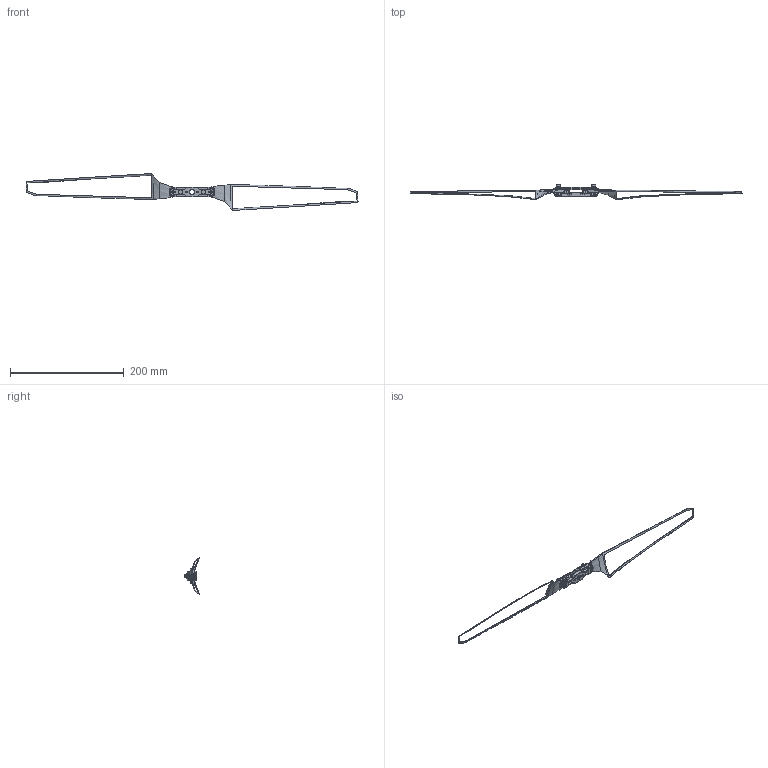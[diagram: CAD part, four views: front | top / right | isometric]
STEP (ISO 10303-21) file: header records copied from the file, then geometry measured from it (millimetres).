
FILE_DESCRIPTION (( 'STEP AP214' ), '1' );
FILE_NAME ('MF23P-A6M-懫諾.STEP', '2025-02-11T03:51:14', ( '' ), ( '' ), 'SwSTEP 2.0', 'SolidWorks 2022', '' );
FILE_SCHEMA (( 'AUTOMOTIVE_DESIGN' ));
Length unit declared in the file: millimetre
Products named in the file (5): M4 弹垫螺丝; 23A23_X2_5bf8686859394e0a677f_X0_-A-B-A; 23A23_X2_5bf8686859394e0b677f_X0_-A-B-A; M22-S5-4-05.02322 _X2_65744f53_X0_+0.25_X2_5ea6_X0_+1mm(_X2_67007ec85b9a578b7248_X0_)_X2_539f59cb53c28003_X0_; MF23P-A6M-镂空
Assembly tree (6 placements, depth 2):
  MF23P-A6M-镂空
    23A23_X2_5bf8686859394e0b677f_X0_-A-B-A
    23A23_X2_5bf8686859394e0a677f_X0_-A-B-A
    M22-S5-4-05.02322 _X2_65744f53_X0_+0.25_X2_5ea6_X0_+1mm(_X2_67007ec85b9a578b7248_X0_)_X2_539f59cb53c28003_X0_  x2
    M4 弹垫螺丝  x2
Bounding box: 584 x 27.07 x 64.81 mm (x, y, z)
Volume: 18581.7 mm3; surface area: 22357.3 mm2
Topology: 8 solids, 8 shells, 745 faces, 1937 edges, 1228 vertices
Faces by surface type: cylinder 296, plane 272, cone 87, bspline 62, torus 28
Entity records: 34904 total; most frequent: CARTESIAN_POINT 20589, ORIENTED_EDGE 3012, DIRECTION 2949, EDGE_CURVE 1506, AXIS2_PLACEMENT_3D 1074, VERTEX_POINT 958, VECTOR 801, LINE 801
